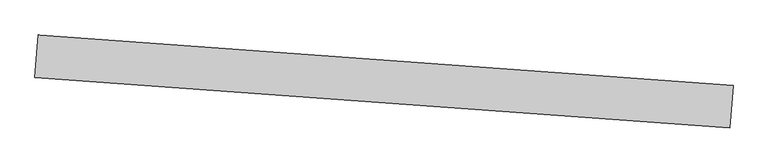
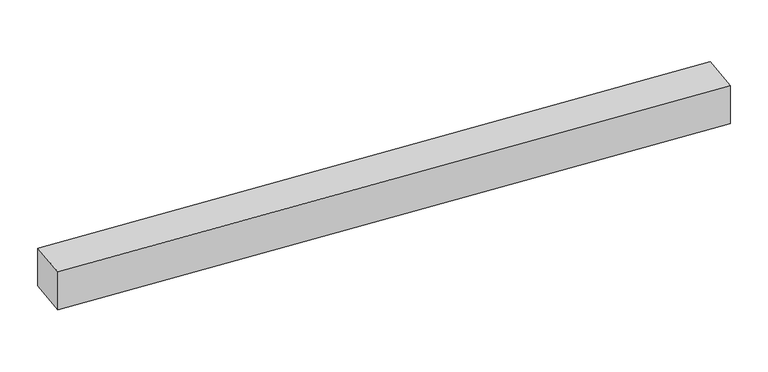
"""IFC4 building model written with IfcOpenShell, lengths in millimetres: proxy geometry, Брус 1 : Брус 2."""

from ifc_helpers import new_model, si_unit, origin, place, context, project, spatial, faceted_brep, source, transform, mapped, element, save


def generic_models_6c975756(model_context):
    return source(origin(), model_context, "Body", "Brep", [
        faceted_brep([(6241.5057117, 19403.4170911, 740.0), (6248.7687645, 19503.1529826, 740.0), (4638.7228665, 19620.4011284, 740.0), (4635.0435916, 19620.6690637, 740.0), (4627.7805388, 19520.9331722, 740.0), (6241.5057117, 19403.4170911, 640.0), (4627.7805388, 19520.9331722, 640.0), (4635.0435916, 19620.6690637, 640.0), (4638.7228665, 19620.4011284, 640.0), (6248.7687645, 19503.1529826, 640.0)], [[[0, 1, 2, 3, 4]], [[5, 6, 7, 8, 9]], [[1, 0, 5, 9]], [[3, 2, 1, 9, 8, 7]], [[4, 3, 7, 6]], [[0, 4, 6, 5]]]),
    ])


if __name__ == "__main__":
    model = new_model("IFC4")
    model_context = context("Model", 3, world=origin())
    ifc_project = project(units=[si_unit("LENGTHUNIT", "METRE", prefix="MILLI")], contexts=[model_context])
    site = spatial("IfcSite", under=ifc_project)
    building = spatial("IfcBuilding", under=site)
    placement = place(None, origin())
    generic_models_shape = generic_models_6c975756(model_context)
    element("IfcBuildingElementProxy", 1, Name="Брус 1 : Брус 2", ObjectType="Брус 1 : Брус 2", at=placement, inside=building, context=model_context, shape_type="MappedRepresentation", body=[
        mapped(generic_models_shape, transform((0.0, 0.0, 0.0), x_axis=(1.0, 0.0, 0.0), y_axis=(0.0, 1.0, 0.0), z_axis=(0.0, 0.0, 1.0))),
    ])
    save(model, "model.ifc")
